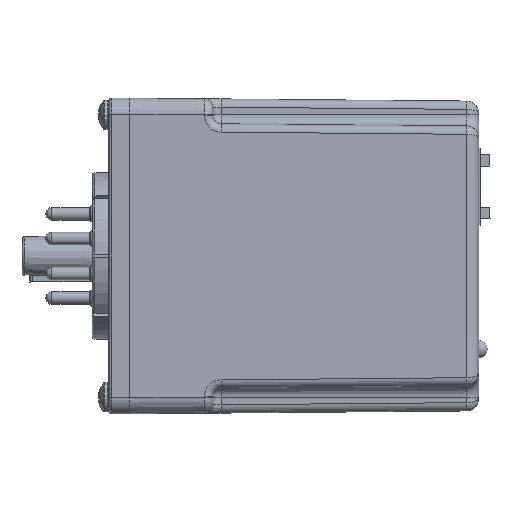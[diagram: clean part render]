
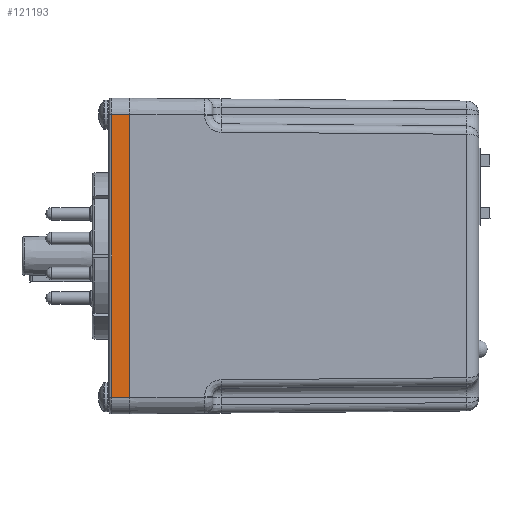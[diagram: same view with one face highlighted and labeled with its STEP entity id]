
A CAD part, left-side view. The second image highlights one B-rep face of the part: STEP entity #121193.
In plain terms, the highlighted planar face has unit normal (-1, 0, 0).
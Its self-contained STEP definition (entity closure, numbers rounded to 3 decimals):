
#101055 = PLANE('',#101056);
#101056 = AXIS2_PLACEMENT_3D('',#101057,#101058,#101059);
#101057 = CARTESIAN_POINT('',(-22.225,18.542,-30.163));
#101058 = DIRECTION('',(0.,1.,0.));
#101059 = DIRECTION('',(1.,0.,-0.));
#107978 = VERTEX_POINT('',#107979);
#107979 = CARTESIAN_POINT('',(-22.225,18.542,26.988));
#107998 = CYLINDRICAL_SURFACE('',#107999,3.175);
#107999 = AXIS2_PLACEMENT_3D('',#108000,#108001,#108002);
#108000 = CARTESIAN_POINT('',(-19.05,18.542,26.988));
#108001 = DIRECTION('',(0.,1.,0.));
#108002 = DIRECTION('',(0.,0.,-1.));
#108010 = EDGE_CURVE('',#108011,#107978,#108013,.T.);
#108011 = VERTEX_POINT('',#108012);
#108012 = CARTESIAN_POINT('',(-22.225,18.542,-26.988));
#108013 = SURFACE_CURVE('',#108014,(#108018,#108025),.PCURVE_S1.);
#108014 = LINE('',#108015,#108016);
#108015 = CARTESIAN_POINT('',(-22.225,18.542,-30.163));
#108016 = VECTOR('',#108017,1.);
#108017 = DIRECTION('',(0.,-0.,1.));
#108018 = PCURVE('',#101055,#108019);
#108019 = DEFINITIONAL_REPRESENTATION('',(#108020),#108024);
#108020 = LINE('',#108021,#108022);
#108021 = CARTESIAN_POINT('',(0.,0.));
#108022 = VECTOR('',#108023,1.);
#108023 = DIRECTION('',(0.,-1.));
#108024 = ( GEOMETRIC_REPRESENTATION_CONTEXT(2) 
PARAMETRIC_REPRESENTATION_CONTEXT() REPRESENTATION_CONTEXT('2D SPACE',''
  ) );
#108025 = PCURVE('',#108026,#108031);
#108026 = PLANE('',#108027);
#108027 = AXIS2_PLACEMENT_3D('',#108028,#108029,#108030);
#108028 = CARTESIAN_POINT('',(-22.225,18.542,-30.163));
#108029 = DIRECTION('',(1.,0.,0.));
#108030 = DIRECTION('',(0.,0.,-1.));
#108031 = DEFINITIONAL_REPRESENTATION('',(#108032),#108036);
#108032 = LINE('',#108033,#108034);
#108033 = CARTESIAN_POINT('',(0.,0.));
#108034 = VECTOR('',#108035,1.);
#108035 = DIRECTION('',(-1.,0.));
#108036 = ( GEOMETRIC_REPRESENTATION_CONTEXT(2) 
PARAMETRIC_REPRESENTATION_CONTEXT() REPRESENTATION_CONTEXT('2D SPACE',''
  ) );
#108059 = CYLINDRICAL_SURFACE('',#108060,3.175);
#108060 = AXIS2_PLACEMENT_3D('',#108061,#108062,#108063);
#108061 = CARTESIAN_POINT('',(-19.05,22.504,-26.988));
#108062 = DIRECTION('',(0.,-1.,0.));
#108063 = DIRECTION('',(0.,0.,1.));
#116272 = CYLINDRICAL_SURFACE('',#116273,0.508);
#116273 = AXIS2_PLACEMENT_3D('',#116274,#116275,#116276);
#116274 = CARTESIAN_POINT('',(-21.717,21.996,-30.163));
#116275 = DIRECTION('',(0.,0.,1.));
#116276 = DIRECTION('',(1.,0.,0.));
#121193 = ADVANCED_FACE('',(#121194),#108026,.F.);
#121194 = FACE_BOUND('',#121195,.T.);
#121195 = EDGE_LOOP('',(#121196,#121219,#121242,#121263));
#121196 = ORIENTED_EDGE('',*,*,#121197,.T.);
#121197 = EDGE_CURVE('',#107978,#121198,#121200,.T.);
#121198 = VERTEX_POINT('',#121199);
#121199 = CARTESIAN_POINT('',(-22.225,21.996,26.988));
#121200 = SURFACE_CURVE('',#121201,(#121205,#121212),.PCURVE_S1.);
#121201 = LINE('',#121202,#121203);
#121202 = CARTESIAN_POINT('',(-22.225,18.542,26.988));
#121203 = VECTOR('',#121204,1.);
#121204 = DIRECTION('',(0.,1.,0.));
#121205 = PCURVE('',#108026,#121206);
#121206 = DEFINITIONAL_REPRESENTATION('',(#121207),#121211);
#121207 = LINE('',#121208,#121209);
#121208 = CARTESIAN_POINT('',(-57.15,0.));
#121209 = VECTOR('',#121210,1.);
#121210 = DIRECTION('',(0.,1.));
#121211 = ( GEOMETRIC_REPRESENTATION_CONTEXT(2) 
PARAMETRIC_REPRESENTATION_CONTEXT() REPRESENTATION_CONTEXT('2D SPACE',''
  ) );
#121212 = PCURVE('',#107998,#121213);
#121213 = DEFINITIONAL_REPRESENTATION('',(#121214),#121218);
#121214 = LINE('',#121215,#121216);
#121215 = CARTESIAN_POINT('',(1.571,0.));
#121216 = VECTOR('',#121217,1.);
#121217 = DIRECTION('',(0.,1.));
#121218 = ( GEOMETRIC_REPRESENTATION_CONTEXT(2) 
PARAMETRIC_REPRESENTATION_CONTEXT() REPRESENTATION_CONTEXT('2D SPACE',''
  ) );
#121219 = ORIENTED_EDGE('',*,*,#121220,.T.);
#121220 = EDGE_CURVE('',#121198,#121221,#121223,.T.);
#121221 = VERTEX_POINT('',#121222);
#121222 = CARTESIAN_POINT('',(-22.225,21.996,-26.988));
#121223 = SURFACE_CURVE('',#121224,(#121228,#121235),.PCURVE_S1.);
#121224 = LINE('',#121225,#121226);
#121225 = CARTESIAN_POINT('',(-22.225,21.996,-30.163));
#121226 = VECTOR('',#121227,1.);
#121227 = DIRECTION('',(0.,0.,-1.));
#121228 = PCURVE('',#108026,#121229);
#121229 = DEFINITIONAL_REPRESENTATION('',(#121230),#121234);
#121230 = LINE('',#121231,#121232);
#121231 = CARTESIAN_POINT('',(0.,3.454));
#121232 = VECTOR('',#121233,1.);
#121233 = DIRECTION('',(1.,0.));
#121234 = ( GEOMETRIC_REPRESENTATION_CONTEXT(2) 
PARAMETRIC_REPRESENTATION_CONTEXT() REPRESENTATION_CONTEXT('2D SPACE',''
  ) );
#121235 = PCURVE('',#116272,#121236);
#121236 = DEFINITIONAL_REPRESENTATION('',(#121237),#121241);
#121237 = LINE('',#121238,#121239);
#121238 = CARTESIAN_POINT('',(3.142,0.));
#121239 = VECTOR('',#121240,1.);
#121240 = DIRECTION('',(0.,-1.));
#121241 = ( GEOMETRIC_REPRESENTATION_CONTEXT(2) 
PARAMETRIC_REPRESENTATION_CONTEXT() REPRESENTATION_CONTEXT('2D SPACE',''
  ) );
#121242 = ORIENTED_EDGE('',*,*,#121243,.T.);
#121243 = EDGE_CURVE('',#121221,#108011,#121244,.T.);
#121244 = SURFACE_CURVE('',#121245,(#121249,#121256),.PCURVE_S1.);
#121245 = LINE('',#121246,#121247);
#121246 = CARTESIAN_POINT('',(-22.225,18.542,-26.988));
#121247 = VECTOR('',#121248,1.);
#121248 = DIRECTION('',(0.,-1.,0.));
#121249 = PCURVE('',#108026,#121250);
#121250 = DEFINITIONAL_REPRESENTATION('',(#121251),#121255);
#121251 = LINE('',#121252,#121253);
#121252 = CARTESIAN_POINT('',(-3.175,0.));
#121253 = VECTOR('',#121254,1.);
#121254 = DIRECTION('',(0.,-1.));
#121255 = ( GEOMETRIC_REPRESENTATION_CONTEXT(2) 
PARAMETRIC_REPRESENTATION_CONTEXT() REPRESENTATION_CONTEXT('2D SPACE',''
  ) );
#121256 = PCURVE('',#108059,#121257);
#121257 = DEFINITIONAL_REPRESENTATION('',(#121258),#121262);
#121258 = LINE('',#121259,#121260);
#121259 = CARTESIAN_POINT('',(1.571,3.962));
#121260 = VECTOR('',#121261,1.);
#121261 = DIRECTION('',(0.,1.));
#121262 = ( GEOMETRIC_REPRESENTATION_CONTEXT(2) 
PARAMETRIC_REPRESENTATION_CONTEXT() REPRESENTATION_CONTEXT('2D SPACE',''
  ) );
#121263 = ORIENTED_EDGE('',*,*,#108010,.T.);
